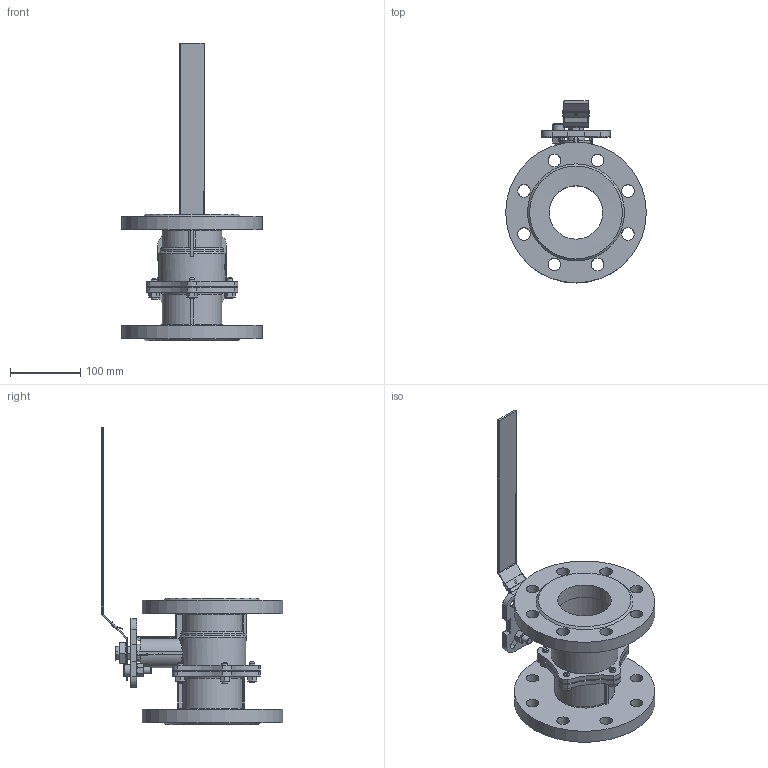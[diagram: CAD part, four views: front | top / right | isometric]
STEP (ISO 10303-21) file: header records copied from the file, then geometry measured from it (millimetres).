
FILE_DESCRIPTION(('STEP AP242'), '1');
FILE_NAME('BV3232P(2pc)-FP-F-ISO-H Êðàí øàðîâîé DN.ru Äó80 Ðó16', '', ('UNSPECIFIED'), ('UNSPECIFIED'), 'C3D Converter', 'C3D Toolkit', '');
FILE_SCHEMA(('AP242_MANAGED_MODEL_BASED_3D_ENGINEERING_MIM_LF { 1 0 10303 442 1 1 4 }'));
Length unit declared in the file: millimetre
Products named in the file (1): BV3232P(2pc)-FP-F-ISO-H
Bounding box: 200 x 258 x 422.73 mm (x, y, z)
Volume: 1424165.5 mm3; surface area: 316431.3 mm2
Topology: 1 solids, 4 shells, 748 faces, 1859 edges, 1155 vertices
Faces by surface type: plane 373, cylinder 182, cone 115, bspline 51, torus 27
Full cylindrical faces by diameter (mm): 1 x1, 5 x1, 8 x10, 8.078 x10, 10 x1, 16 x1, 18 x16, 25 x1, 30 x3, 76 x2, 80 x1, 90 x1, 200 x2
Entity records: 37092 total; most frequent: CARTESIAN_POINT 17207, ORIENTED_EDGE 3534, DIRECTION 3268, EDGE_CURVE 1767, AXIS2_PLACEMENT_3D 1204, VERTEX_POINT 1144, EDGE_LOOP 935, LINE 860
